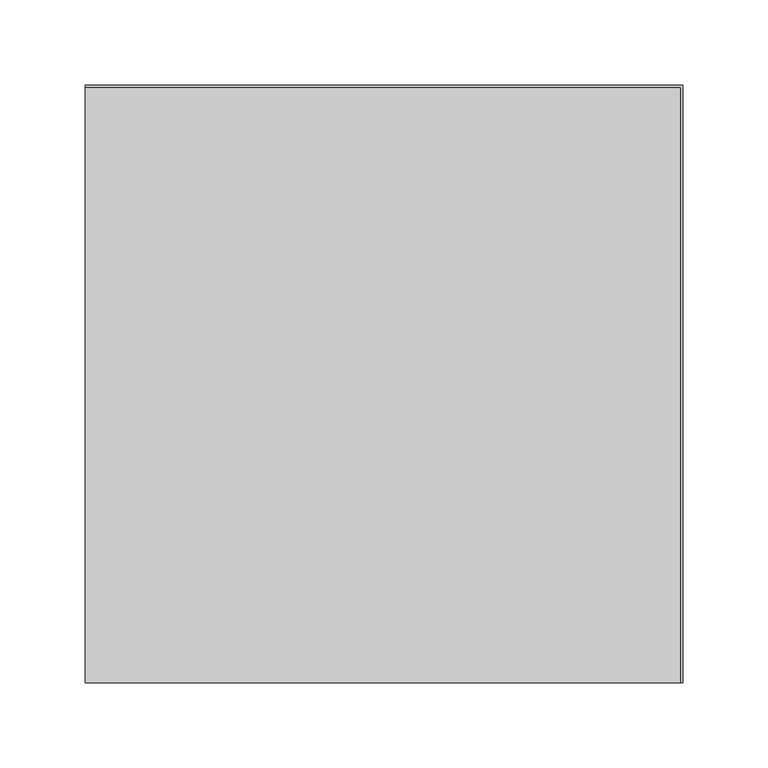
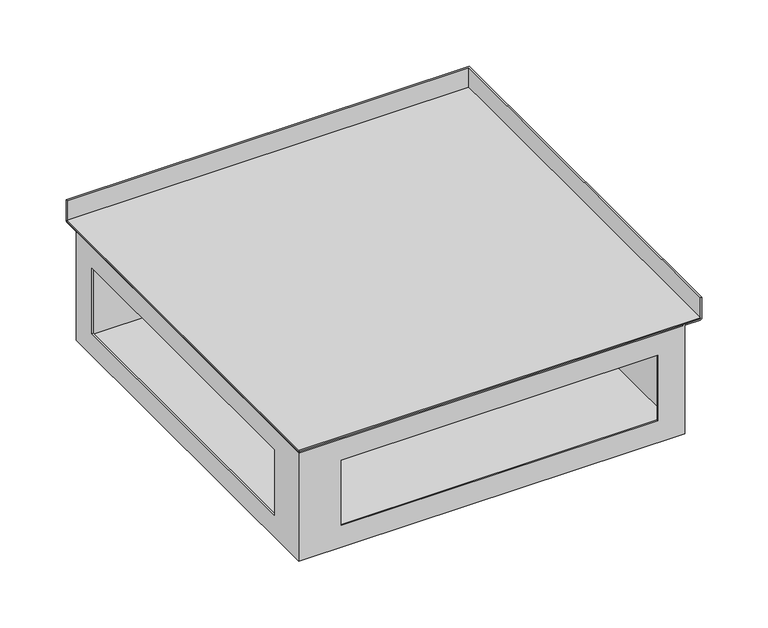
"""IFC4 building model written with IfcOpenShell, lengths in millimetres: proxy geometry, TECHNO_Угловой элемент_KVU : 350_120_90°."""

from ifc_helpers import new_model, si_unit, frame, origin, place, context, project, spatial, polyline, circle_curve, ellipse_curve, outline, extrude, source, transform, mapped, element, save
from ifc_brep_helpers import plane_surface, cylinder_surface, advanced_brep


def mechanical_equipment_a8a21285(model_context):
    return source(origin(), model_context, "Body", "SolidModel", [
        extrude(outline(polyline([(0.0, 173.8), (348.8, 173.8), (348.8, -175.0), (0.0, -175.0), (0.0, 173.8)])), frame((0.0, 0.0, -19.3), z_axis=(0.0, 0.0, 1.0), x_axis=(1.0, 0.0, 0.0)), (0.0, 0.0, 1.0), 1.2),
        advanced_brep(
        [(1.2, 159.0, -118.8), (1.2, -173.8, -118.8), (334.0, -173.8, -118.8), (334.0, 159.0, -118.8), (0.0, 160.2, -120.0), (335.2, 160.2, -120.0), (335.2, -175.0, -120.0), (0.0, -175.0, -120.0), (0.0, 160.2, -20.5), (0.0, -175.0, -20.5), (0.0, 159.0, -20.5), (0.0, 160.2, -19.3), (0.0, 173.8, -19.3), (0.0, 173.8, 0.0), (0.0, 175.0, 0.0), (0.0, 175.0, -19.3), (0.0, 173.8, -20.5), (0.0, -138.0, -40.0), (0.0, -138.0, -100.0), (0.0, 137.0, -100.0), (0.0, 137.0, -40.0), (335.2, -175.0, -20.5), (348.8, -175.0, -20.5), (350.0, -175.0, -19.3), (350.0, -175.0, 0.0), (348.8, -175.0, 0.0), (348.8, -175.0, -19.3), (335.2, -175.0, -19.3), (334.0, -175.0, -20.5), (37.0, -175.0, -100.0), (37.0, -175.0, -40.0), (312.0, -175.0, -40.0), (312.0, -175.0, -100.0), (335.2, 160.2, -20.5), (1.2, 160.2, -19.3), (1.2, -173.8, -19.3), (335.2, -173.8, -19.3), (348.8, 173.8, -19.3), (335.2, -159.0, -19.3), (16.0, -159.0, -19.3), (16.0, 160.2, -19.3), (335.2, 160.2, -19.3), (16.0, -159.0, -20.5), (16.0, 159.0, -20.5), (334.0, -159.0, -20.5), (334.0, -173.8, -20.5), (1.2, -173.8, -20.5), (1.2, 159.0, -20.5), (1.2, -138.0, -100.0), (1.2, -138.0, -40.0), (1.2, 137.0, -40.0), (1.2, 137.0, -100.0), (37.0, -173.8, -40.0), (37.0, -173.8, -100.0), (312.0, -173.8, -100.0), (312.0, -173.8, -40.0), (350.0, 175.0, -19.3), (350.0, 175.0, 0.0), (348.8, 173.8, 0.0), (348.8, 173.8, -20.5), (334.0, 159.0, -20.5)],
        [
            (0, 1),
            (1, 2),
            (2, 3),
            (3, 0),
            (4, 5),
            (5, 6),
            (6, 7),
            (7, 4),
            (8, 4),
            (7, 9),
            (9, 10),
            (10, 11, circle_curve(frame((0.0, 160.2, -20.5), z_axis=(-1.0, 0.0, 0.0), x_axis=(0.0, -1.0, 0.0)), 1.2)),
            (11, 12),
            (12, 13),
            (13, 14),
            (14, 15),
            (15, 16, circle_curve(frame((0.0, 173.8, -19.3), z_axis=(-1.0, 0.0, 0.0), x_axis=(0.0, -1.0, 0.0)), 1.2)),
            (16, 8),
            (17, 18),
            (18, 19),
            (19, 20),
            (20, 17),
            (6, 21),
            (21, 22),
            (22, 23, circle_curve(frame((348.8, -175.0, -19.3), z_axis=(0.0, -1.0, 0.0), x_axis=(-1.0, 0.0, 0.0)), 1.2)),
            (23, 24),
            (24, 25),
            (25, 26),
            (26, 27),
            (27, 28, circle_curve(frame((335.2, -175.0, -20.5), z_axis=(0.0, -1.0, 0.0), x_axis=(-1.0, 0.0, 0.0)), 1.2)),
            (28, 9),
            (29, 30),
            (30, 31),
            (31, 32),
            (32, 29),
            (8, 33),
            (33, 5),
            (33, 21),
            (34, 35),
            (35, 36),
            (36, 27),
            (26, 37),
            (37, 12),
            (11, 34),
            (38, 39),
            (39, 40),
            (40, 41),
            (41, 38),
            (39, 42),
            (42, 43),
            (43, 40, circle_curve(frame((16.0, 160.2, -20.5), z_axis=(-1.0, 0.0, 0.0), x_axis=(0.0, -1.0, 0.0)), 1.2)),
            (38, 44, circle_curve(frame((335.2, -159.0, -20.5), z_axis=(0.0, -1.0, 0.0), x_axis=(-1.0, 0.0, 0.0)), 1.2)),
            (44, 42),
            (44, 45),
            (45, 46),
            (46, 47),
            (47, 43),
            (46, 1),
            (0, 47),
            (48, 49),
            (49, 50),
            (50, 51),
            (51, 48),
            (45, 2),
            (52, 53),
            (53, 54),
            (54, 55),
            (55, 52),
            (34, 10, ellipse_curve(frame((1.2, 160.2, -20.5), z_axis=(0.7071067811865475, -0.7071067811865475, 0.0), x_axis=(0.7071067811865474, 0.7071067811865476, 0.0)), 1.6970563, 1.2)),
            (9, 35, ellipse_curve(frame((1.2, -173.8, -20.5), z_axis=(-0.7071067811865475, 0.7071067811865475, 0.0), x_axis=(0.7071067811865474, 0.7071067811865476, 0.0)), 1.6970563, 1.2)),
            (28, 36, ellipse_curve(frame((335.2, -173.8, -20.5), z_axis=(-0.7071067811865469, 0.7071067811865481, 0.0), x_axis=(-0.7071067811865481, -0.7071067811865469, 0.0)), 1.6970563, 1.2)),
            (23, 56),
            (56, 57),
            (57, 24),
            (57, 14),
            (13, 58),
            (58, 25),
            (58, 37),
            (16, 59),
            (59, 22),
            (59, 56, ellipse_curve(frame((348.8, 173.8, -19.3), z_axis=(0.7071067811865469, -0.7071067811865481, 0.0), x_axis=(-0.7071067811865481, -0.7071067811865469, 0.0)), 1.6970563, 1.2)),
            (56, 15),
            (41, 60, ellipse_curve(frame((335.2, 160.2, -20.5), z_axis=(0.7071067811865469, -0.7071067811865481, 0.0), x_axis=(-0.7071067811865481, -0.7071067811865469, 0.0)), 1.6970563, 1.2)),
            (60, 44),
            (60, 3),
            (43, 60),
            (48, 18),
            (17, 49),
            (51, 19),
            (50, 20),
            (52, 30),
            (29, 53),
            (55, 31),
            (54, 32),
        ],
        [
            plane_surface(frame((0.0, 159.0, -118.8), z_axis=(0.0, 0.0, 1.0), x_axis=(0.0, -1.0, 0.0))),
            plane_surface(frame((0.0, 159.0, -120.0), z_axis=(0.0, 0.0, -1.0), x_axis=(0.0, 1.0, 0.0))),
            plane_surface(frame((0.0, 159.0, -118.8), z_axis=(-1.0, 0.0, 0.0), x_axis=(0.0, 0.0, -1.0))),
            plane_surface(frame((0.0, -175.0, -118.8), z_axis=(0.0, -1.0, 0.0), x_axis=(0.0, 0.0, -1.0))),
            plane_surface(frame((0.0, 160.2, -120.0), z_axis=(0.0, 1.0, 0.0), x_axis=(0.0, 0.0, -1.0))),
            plane_surface(frame((335.2, -175.0, -120.0), z_axis=(1.0, 0.0, 0.0), x_axis=(0.0, 0.0, -1.0))),
            plane_surface(frame((1.2, 160.2, -19.3), z_axis=(0.0, 0.0, 1.0), x_axis=(0.0, -1.0, 0.0))),
            plane_surface(frame((16.0, 160.2, -19.3), z_axis=(1.0, 0.0, 0.0), x_axis=(0.0, -1.0, 0.0))),
            plane_surface(frame((16.0, -159.0, -19.3), z_axis=(0.0, 1.0, 0.0), x_axis=(1.0, 0.0, 0.0))),
            plane_surface(frame((16.0, 160.2, -20.5), z_axis=(0.0, 0.0, -1.0), x_axis=(0.0, -1.0, 0.0))),
            plane_surface(frame((1.2, 160.2, -20.5), z_axis=(1.0, 0.0, 0.0), x_axis=(0.0, -1.0, 0.0))),
            plane_surface(frame((1.2, -173.8, -20.5), z_axis=(0.0, 1.0, 0.0), x_axis=(1.0, 0.0, 0.0))),
            cylinder_surface(frame((1.2, 160.2, -20.5), z_axis=(0.0, 1.0, 0.0), x_axis=(-1.0, 0.0, 0.0)), 1.2),
            cylinder_surface(frame((0.0, -173.8, -20.5), z_axis=(-1.0, 0.0, 0.0), x_axis=(0.0, -1.0, 0.0)), 1.2),
            plane_surface(frame((350.0, -175.0, -19.3), z_axis=(1.0, 0.0, 0.0), x_axis=(0.0, 1.0, 0.0))),
            plane_surface(frame((350.0, -175.0, 0.0), z_axis=(0.0, 0.0, 1.0), x_axis=(0.0, 1.0, 0.0))),
            plane_surface(frame((348.8, -175.0, 0.0), z_axis=(-1.0, 0.0, 0.0), x_axis=(0.0, 1.0, 0.0))),
            plane_surface(frame((335.2, -175.0, -20.5), z_axis=(0.0, 0.0, -1.0), x_axis=(0.0, 1.0, 0.0))),
            cylinder_surface(frame((348.8, -175.0, -19.3), z_axis=(0.0, -1.0, 0.0), x_axis=(-1.0, 0.0, 0.0)), 1.2),
            plane_surface(frame((350.0, 175.0, -19.3), z_axis=(0.0, 1.0, 0.0), x_axis=(-1.0, 0.0, 0.0))),
            plane_surface(frame((348.8, 173.8, 0.0), z_axis=(0.0, -1.0, 0.0), x_axis=(-1.0, 0.0, 0.0))),
            cylinder_surface(frame((175.0, 173.8, -19.3), z_axis=(1.0, 0.0, 0.0), x_axis=(0.0, -1.0, 0.0)), 1.2),
            cylinder_surface(frame((335.2, -175.0, -20.5), z_axis=(0.0, -1.0, 0.0), x_axis=(-1.0, 0.0, 0.0)), 1.2),
            plane_surface(frame((334.0, -175.0, -20.5), z_axis=(-1.0, 0.0, 0.0), x_axis=(0.0, 1.0, 0.0))),
            cylinder_surface(frame((175.0, 160.2, -20.5), z_axis=(1.0, 0.0, 0.0), x_axis=(0.0, -1.0, 0.0)), 1.2),
            plane_surface(frame((334.0, 159.0, -20.5), z_axis=(0.0, -1.0, 0.0), x_axis=(-1.0, 0.0, 0.0))),
            plane_surface(frame((1.2, -138.0, -40.0), z_axis=(0.0, 1.0, 0.0), x_axis=(-1.0, 0.0, 0.0))),
            plane_surface(frame((1.2, -138.0, -100.0), z_axis=(0.0, 0.0, 1.0), x_axis=(-1.0, 0.0, 0.0))),
            plane_surface(frame((1.2, 137.0, -100.0), z_axis=(0.0, -1.0, 0.0), x_axis=(-1.0, 0.0, 0.0))),
            plane_surface(frame((1.2, 137.0, -40.0), z_axis=(0.0, 0.0, -1.0), x_axis=(-1.0, 0.0, 0.0))),
            plane_surface(frame((37.0, -173.8, -100.0), z_axis=(1.0, 0.0, 0.0), x_axis=(0.0, -1.0, 0.0))),
            plane_surface(frame((37.0, -173.8, -40.0), z_axis=(0.0, 0.0, -1.0), x_axis=(0.0, -1.0, 0.0))),
            plane_surface(frame((312.0, -173.8, -40.0), z_axis=(-1.0, 0.0, 0.0), x_axis=(0.0, -1.0, 0.0))),
            plane_surface(frame((312.0, -173.8, -100.0), z_axis=(0.0, 0.0, 1.0), x_axis=(0.0, -1.0, 0.0))),
        ],
        [
            (0, [[1, 2, 3, 4]]),
            (1, [[5, 6, 7, 8]]),
            (2, [[9, -8, 10, 11, 12, 13, 14, 15, 16, 17, 18], [19, 20, 21, 22]]),
            (3, [[23, 24, 25, 26, 27, 28, 29, 30, 31, -10, -7], [32, 33, 34, 35]]),
            (4, [[-9, 36, 37, -5]]),
            (5, [[-23, -6, -37, 38]]),
            (6, [[39, 40, 41, -29, 42, 43, -13, 44], [45, 46, 47, 48]]),
            (7, [[-46, 49, 50, 51]]),
            (8, [[-45, 52, 53, -49]]),
            (9, [[-50, -53, 54, 55, 56, 57]]),
            (10, [[58, -1, 59, -56], [60, 61, 62, 63]]),
            (11, [[-58, -55, 64, -2], [65, 66, 67, 68]]),
            (12, [[-39, 69, -11, 70]]),
            (13, [[-40, -70, -31, 71]]),
            (14, [[-26, 72, 73, 74]]),
            (15, [[-27, -74, 75, -15, 76, 77]]),
            (16, [[-28, -77, 78, -42]]),
            (17, [[-24, -38, -36, -18, 79, 80]]),
            (18, [[-25, -80, 81, -72]]),
            (19, [[-73, 82, -16, -75]]),
            (20, [[-76, -14, -43, -78]]),
            (21, [[-79, -17, -82, -81]]),
            (22, [[-30, -41, -71]]),
            (22, [[83, 84, -52, -48]]),
            (23, [[85, -3, -64, -54, -84]]),
            (24, [[-12, -69, -44]]),
            (24, [[-83, -47, -51, 86]]),
            (25, [[-85, -86, -57, -59, -4]]),
            (26, [[87, -19, 88, -60]]),
            (27, [[-87, -63, 89, -20]]),
            (28, [[-89, -62, 90, -21]]),
            (29, [[-88, -22, -90, -61]]),
            (30, [[91, -32, 92, -65]]),
            (31, [[-91, -68, 93, -33]]),
            (32, [[-93, -67, 94, -34]]),
            (33, [[-92, -35, -94, -66]]),
        ],
    ),
    ])


if __name__ == "__main__":
    model = new_model("IFC4")
    model_context = context("Model", 3, world=origin())
    ifc_project = project(units=[si_unit("LENGTHUNIT", "METRE", prefix="MILLI")], contexts=[model_context])
    site = spatial("IfcSite", under=ifc_project)
    building = spatial("IfcBuilding", under=site)
    placement = place(None, origin())
    mechanical_equipment_shape = mechanical_equipment_a8a21285(model_context)
    element("IfcBuildingElementProxy", 1, Name="TECHNO_Угловой элемент_KVU : 350_120_90°", ObjectType="TECHNO_Угловой элемент_KVU : 350_120_90°", at=placement, inside=building, context=model_context, shape_type="MappedRepresentation", body=[
        mapped(mechanical_equipment_shape, transform((0.0, 0.0, 0.0), x_axis=(1.0, 0.0, 0.0), y_axis=(0.0, 1.0, 0.0), z_axis=(0.0, 0.0, 1.0))),
    ])
    save(model, "model.ifc")
